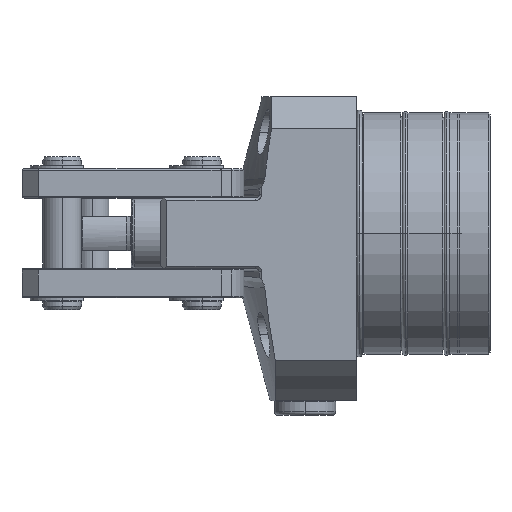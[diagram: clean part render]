
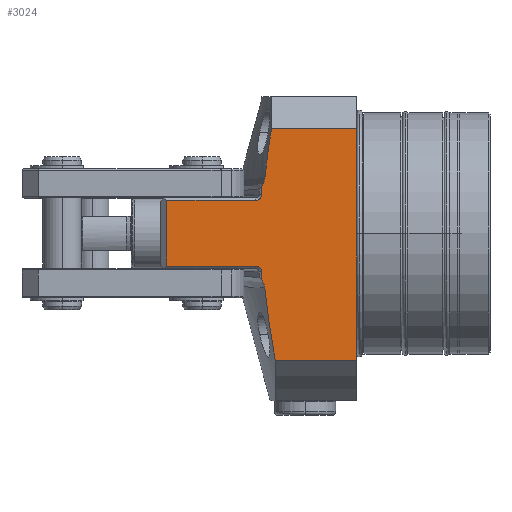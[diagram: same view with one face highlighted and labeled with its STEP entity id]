
A CAD part, top view. The second image highlights one B-rep face of the part: STEP entity #3024.
In plain terms, the highlighted planar face has unit normal (0, 0, 1).
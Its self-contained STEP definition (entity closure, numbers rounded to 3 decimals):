
#1488=B_SPLINE_CURVE_WITH_KNOTS('',3,(#12754,#12755,#12756,#12757),
 .UNSPECIFIED.,.F.,.F.,(4,4),(0.,1.),.UNSPECIFIED.);
#1496=B_SPLINE_CURVE_WITH_KNOTS('',3,(#12938,#12939,#12940,#12941,#12942,
#12943,#12944),.UNSPECIFIED.,.F.,.F.,(4,3,4),(0.,0.48,1.),
 .UNSPECIFIED.);
#1504=B_SPLINE_CURVE_WITH_KNOTS('',3,(#13048,#13049,#13050,#13051,#13052,
#13053,#13054,#13055,#13056,#13057,#13058,#13059,#13060,#13061,#13062,#13063,
#13064,#13065),.UNSPECIFIED.,.F.,.F.,(4,2,2,2,2,2,2,2,4),(0.,0.125,0.25,
0.375,0.5,0.625,0.75,0.875,1.),.UNSPECIFIED.);
#1505=B_SPLINE_CURVE_WITH_KNOTS('',3,(#13075,#13076,#13077,#13078),
 .UNSPECIFIED.,.F.,.F.,(4,4),(0.,1.),.UNSPECIFIED.);
#1506=B_SPLINE_CURVE_WITH_KNOTS('',3,(#13080,#13081,#13082,#13083,#13084,
#13085,#13086),.UNSPECIFIED.,.F.,.F.,(4,3,4),(0.,0.48,1.),
 .UNSPECIFIED.);
#1507=B_SPLINE_CURVE_WITH_KNOTS('',3,(#13090,#13091,#13092,#13093,#13094,
#13095,#13096,#13097,#13098,#13099,#13100,#13101,#13102,#13103,#13104,#13105,
#13106,#13107),.UNSPECIFIED.,.F.,.F.,(4,2,2,2,2,2,2,2,4),(0.,0.125,0.25,
0.375,0.5,0.625,0.75,0.875,1.),.UNSPECIFIED.);
#1907=LINE('',#13068,#2259);
#1908=LINE('',#13069,#2260);
#1909=LINE('',#13071,#2261);
#1910=LINE('',#13073,#2262);
#1911=LINE('',#13088,#2263);
#1912=LINE('',#13109,#2264);
#1913=LINE('',#13111,#2265);
#1914=LINE('',#13113,#2266);
#2259=VECTOR('',#10561,1.);
#2260=VECTOR('',#10562,1.);
#2261=VECTOR('',#10563,1.);
#2262=VECTOR('',#10564,1.);
#2263=VECTOR('',#10565,1.);
#2264=VECTOR('',#10566,1.);
#2265=VECTOR('',#10567,1.);
#2266=VECTOR('',#10568,1.);
#3024=ADVANCED_FACE('',(#3544),#3251,.T.);
#3251=PLANE('',#8743);
#3544=FACE_OUTER_BOUND('',#3962,.T.);
#3962=EDGE_LOOP('',(#5307,#5308,#5309,#5310,#5311,#5312,#5313,#5314,#5315,
#5316,#5317,#5318,#5319,#5320));
#5307=ORIENTED_EDGE('',*,*,#7333,.T.);
#5308=ORIENTED_EDGE('',*,*,#7334,.T.);
#5309=ORIENTED_EDGE('',*,*,#7325,.T.);
#5310=ORIENTED_EDGE('',*,*,#7274,.T.);
#5311=ORIENTED_EDGE('',*,*,#7335,.T.);
#5312=ORIENTED_EDGE('',*,*,#7336,.T.);
#5313=ORIENTED_EDGE('',*,*,#7337,.F.);
#5314=ORIENTED_EDGE('',*,*,#7338,.T.);
#5315=ORIENTED_EDGE('',*,*,#7339,.T.);
#5316=ORIENTED_EDGE('',*,*,#7340,.T.);
#5317=ORIENTED_EDGE('',*,*,#7341,.T.);
#5318=ORIENTED_EDGE('',*,*,#7342,.T.);
#5319=ORIENTED_EDGE('',*,*,#7343,.T.);
#5320=ORIENTED_EDGE('',*,*,#7344,.T.);
#6488=VERTEX_POINT('',#12753);
#6489=VERTEX_POINT('',#12758);
#6528=VERTEX_POINT('',#12945);
#6533=VERTEX_POINT('',#13066);
#6534=VERTEX_POINT('',#13067);
#6535=VERTEX_POINT('',#13070);
#6536=VERTEX_POINT('',#13072);
#6537=VERTEX_POINT('',#13074);
#6538=VERTEX_POINT('',#13079);
#6539=VERTEX_POINT('',#13087);
#6540=VERTEX_POINT('',#13089);
#6541=VERTEX_POINT('',#13108);
#6542=VERTEX_POINT('',#13110);
#6543=VERTEX_POINT('',#13112);
#7274=EDGE_CURVE('',#6489,#6488,#1488,.T.);
#7325=EDGE_CURVE('',#6528,#6489,#1496,.T.);
#7333=EDGE_CURVE('',#6533,#6534,#1504,.T.);
#7334=EDGE_CURVE('',#6534,#6528,#1907,.T.);
#7335=EDGE_CURVE('',#6488,#6535,#1908,.T.);
#7336=EDGE_CURVE('',#6535,#6536,#1909,.T.);
#7337=EDGE_CURVE('',#6537,#6536,#1910,.T.);
#7338=EDGE_CURVE('',#6537,#6538,#1505,.T.);
#7339=EDGE_CURVE('',#6538,#6539,#1506,.T.);
#7340=EDGE_CURVE('',#6539,#6540,#1911,.T.);
#7341=EDGE_CURVE('',#6540,#6541,#1507,.T.);
#7342=EDGE_CURVE('',#6541,#6542,#1912,.T.);
#7343=EDGE_CURVE('',#6542,#6543,#1913,.T.);
#7344=EDGE_CURVE('',#6543,#6533,#1914,.T.);
#8743=AXIS2_PLACEMENT_3D('',#13114,#10569,#10570);
#10561=DIRECTION('',(0.,-1.,0.));
#10562=DIRECTION('',(1.,0.,0.));
#10563=DIRECTION('',(0.,1.,0.));
#10564=DIRECTION('',(1.,0.,0.));
#10565=DIRECTION('',(0.,-1.,0.));
#10566=DIRECTION('',(-1.,0.,0.));
#10567=DIRECTION('',(0.,-1.,0.));
#10568=DIRECTION('',(1.,0.,0.));
#10569=DIRECTION('',(0.,0.,1.));
#10570=DIRECTION('',(1.,0.,0.));
#12753=CARTESIAN_POINT('',(-25.237,-39.468,42.5));
#12754=CARTESIAN_POINT('',(-28.511,-17.019,42.5));
#12755=CARTESIAN_POINT('',(-27.76,-24.552,42.5));
#12756=CARTESIAN_POINT('',(-26.594,-32.024,42.5));
#12757=CARTESIAN_POINT('',(-25.237,-39.468,42.5));
#12758=CARTESIAN_POINT('',(-28.511,-17.019,42.5));
#12938=CARTESIAN_POINT('',(-29.527,-14.488,42.5));
#12939=CARTESIAN_POINT('',(-29.256,-14.836,42.5));
#12940=CARTESIAN_POINT('',(-29.03,-15.223,42.5));
#12941=CARTESIAN_POINT('',(-28.861,-15.63,42.5));
#12942=CARTESIAN_POINT('',(-28.677,-16.071,42.5));
#12943=CARTESIAN_POINT('',(-28.558,-16.544,42.5));
#12944=CARTESIAN_POINT('',(-28.511,-17.019,42.5));
#12945=CARTESIAN_POINT('',(-29.527,-14.488,42.5));
#13048=CARTESIAN_POINT('',(-31.39,-10.2,42.5));
#13049=CARTESIAN_POINT('',(-31.268,-10.2,42.5));
#13050=CARTESIAN_POINT('',(-31.146,-10.212,42.5));
#13051=CARTESIAN_POINT('',(-30.907,-10.258,42.5));
#13052=CARTESIAN_POINT('',(-30.79,-10.292,42.5));
#13053=CARTESIAN_POINT('',(-30.564,-10.382,42.5));
#13054=CARTESIAN_POINT('',(-30.456,-10.438,42.5));
#13055=CARTESIAN_POINT('',(-30.254,-10.569,42.5));
#13056=CARTESIAN_POINT('',(-30.159,-10.644,42.5));
#13057=CARTESIAN_POINT('',(-29.986,-10.811,42.5));
#13058=CARTESIAN_POINT('',(-29.909,-10.902,42.5));
#13059=CARTESIAN_POINT('',(-29.773,-11.098,42.5));
#13060=CARTESIAN_POINT('',(-29.715,-11.202,42.5));
#13061=CARTESIAN_POINT('',(-29.622,-11.42,42.5));
#13062=CARTESIAN_POINT('',(-29.586,-11.533,42.5));
#13063=CARTESIAN_POINT('',(-29.539,-11.764,42.5));
#13064=CARTESIAN_POINT('',(-29.527,-11.882,42.5));
#13065=CARTESIAN_POINT('',(-29.527,-12.,42.5));
#13066=CARTESIAN_POINT('',(-31.39,-10.2,42.5));
#13067=CARTESIAN_POINT('',(-29.527,-12.,42.5));
#13068=CARTESIAN_POINT('',(-29.527,-12.5,42.5));
#13069=CARTESIAN_POINT('',(-61.,-39.468,42.5));
#13070=CARTESIAN_POINT('',(0.,-39.468,42.5));
#13071=CARTESIAN_POINT('',(0.,32.5,42.5));
#13072=CARTESIAN_POINT('',(0.,32.5,42.5));
#13073=CARTESIAN_POINT('',(-61.,32.5,42.5));
#13074=CARTESIAN_POINT('',(-26.442,32.5,42.5));
#13075=CARTESIAN_POINT('',(-26.442,32.5,42.5));
#13076=CARTESIAN_POINT('',(-27.278,27.359,42.5));
#13077=CARTESIAN_POINT('',(-27.994,22.202,42.5));
#13078=CARTESIAN_POINT('',(-28.511,17.019,42.5));
#13079=CARTESIAN_POINT('',(-28.511,17.019,42.5));
#13080=CARTESIAN_POINT('',(-28.511,17.019,42.5));
#13081=CARTESIAN_POINT('',(-28.554,16.58,42.5));
#13082=CARTESIAN_POINT('',(-28.659,16.144,42.5));
#13083=CARTESIAN_POINT('',(-28.819,15.733,42.5));
#13084=CARTESIAN_POINT('',(-28.992,15.288,42.5));
#13085=CARTESIAN_POINT('',(-29.234,14.865,42.5));
#13086=CARTESIAN_POINT('',(-29.527,14.488,42.5));
#13087=CARTESIAN_POINT('',(-29.527,14.488,42.5));
#13088=CARTESIAN_POINT('',(-29.527,12.,42.5));
#13089=CARTESIAN_POINT('',(-29.527,12.,42.5));
#13090=CARTESIAN_POINT('',(-29.527,12.,42.5));
#13091=CARTESIAN_POINT('',(-29.527,11.882,42.5));
#13092=CARTESIAN_POINT('',(-29.539,11.764,42.5));
#13093=CARTESIAN_POINT('',(-29.586,11.533,42.5));
#13094=CARTESIAN_POINT('',(-29.622,11.42,42.5));
#13095=CARTESIAN_POINT('',(-29.715,11.202,42.5));
#13096=CARTESIAN_POINT('',(-29.773,11.098,42.5));
#13097=CARTESIAN_POINT('',(-29.909,10.902,42.5));
#13098=CARTESIAN_POINT('',(-29.986,10.811,42.5));
#13099=CARTESIAN_POINT('',(-30.159,10.644,42.5));
#13100=CARTESIAN_POINT('',(-30.254,10.569,42.5));
#13101=CARTESIAN_POINT('',(-30.456,10.438,42.5));
#13102=CARTESIAN_POINT('',(-30.564,10.382,42.5));
#13103=CARTESIAN_POINT('',(-30.79,10.292,42.5));
#13104=CARTESIAN_POINT('',(-30.907,10.258,42.5));
#13105=CARTESIAN_POINT('',(-31.146,10.212,42.5));
#13106=CARTESIAN_POINT('',(-31.268,10.2,42.5));
#13107=CARTESIAN_POINT('',(-31.39,10.2,42.5));
#13108=CARTESIAN_POINT('',(-31.39,10.2,42.5));
#13109=CARTESIAN_POINT('',(-61.,10.2,42.5));
#13110=CARTESIAN_POINT('',(-59.,10.2,42.5));
#13111=CARTESIAN_POINT('',(-59.,-11.,42.5));
#13112=CARTESIAN_POINT('',(-59.,-10.2,42.5));
#13113=CARTESIAN_POINT('',(-61.,-10.2,42.5));
#13114=CARTESIAN_POINT('',(-61.,-12.5,42.5));
